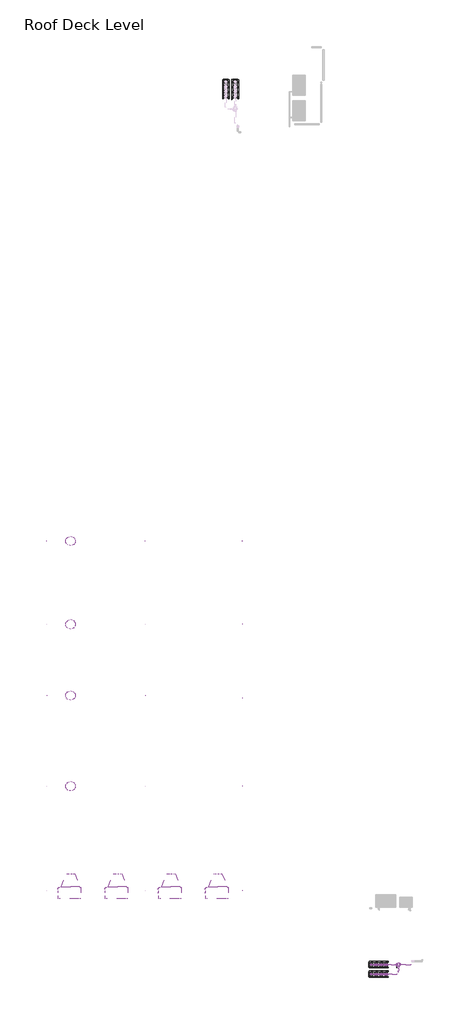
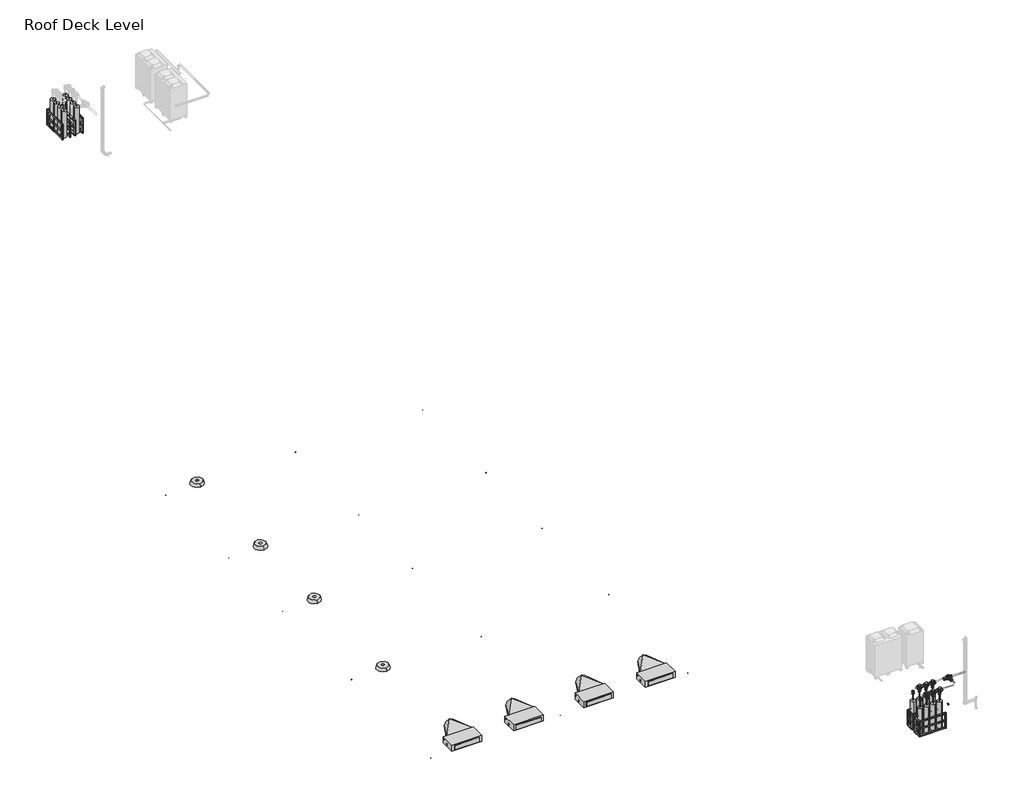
# One storey, part 1 of 3: 20 pipe segments, 17 pipe fittings, 15 light fixtures, 4 air terminals, 4 duct fittings, 4 flow terminals, 4 proxies.
"""IFC4 building model written with IfcOpenShell, lengths in millimetres."""

from ifc_helpers import new_model, si_unit, point, frame, frame_2d, origin, place, context, project, spatial, circle_curve, trimmed, segment, composite_curve, outline, extrude, transform, mapped, element, save
from components import m_supply_diffuser_circular_round_neck_ceiling_mounted_600_mm_208f270a, fcu_daikin_iu_5a1bd61d, m_rectangular_to_round_transition_angle_45_degree_78946b4e, flow_terminal_4c00ecbf, m_studio_light_120v_2dcb9a91, m_reducer_flanged_cs_class_150_standard_b6b67c23, m_reducer_flanged_cs_class_150_standard_6ae1fdcb, m_reducer_flanged_cs_class_150_standard_13db1923, m_tee_round_base_flanged_cs_class_150_standard_dd767e04, m_tee_round_base_flanged_cs_class_150_standard_9c9133d0

model = new_model("IFC4")

# Units and contexts
model_context = context("Model", 3, world=origin())
ifc_project = project(units=[si_unit("LENGTHUNIT", "METRE", prefix="MILLI")], contexts=[model_context])

# Site, building, storey
site = spatial("IfcSite", under=ifc_project)
building = spatial("IfcBuilding", under=site)
storey = spatial("IfcBuildingStorey", under=building, Name="Roof Deck Level", Elevation=4400.0)

# Air terminals
placement = place(None, origin())
m_supply_diffuser_circular_round_neck_ceiling_mounted_600_mm_shape = m_supply_diffuser_circular_round_neck_ceiling_mounted_600_mm_208f270a(model_context)
element("IfcAirTerminal", 1, ObjectType="M_Supply Diffuser - Circular - Round Neck - Ceiling Mounted : 600 mm Face 500 mm Neck", at=placement, inside=storey, context=model_context, shape_type="MappedRepresentation", body=[
    mapped(m_supply_diffuser_circular_round_neck_ceiling_mounted_600_mm_shape, transform((-16150.3527512, -9864.9909647, 7272.7131214), x_axis=(0.0, 0.9999999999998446, -5.576948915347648e-07), y_axis=(1.0000000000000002, 0.0, 0.0), z_axis=(0.0, -5.576948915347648e-07, -0.9999999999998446))),
])
element("IfcAirTerminal", 2, ObjectType="M_Supply Diffuser - Circular - Round Neck - Ceiling Mounted : 600 mm Face 500 mm Neck", at=placement, inside=storey, context=model_context, shape_type="MappedRepresentation", body=[
    mapped(m_supply_diffuser_circular_round_neck_ceiling_mounted_600_mm_shape, transform((-16150.3527512, -15012.9908891, 7272.7159924), x_axis=(0.0, 0.9999999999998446, -5.576948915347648e-07), y_axis=(1.0000000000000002, 0.0, 0.0), z_axis=(0.0, -5.576948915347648e-07, -0.9999999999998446))),
])
element("IfcAirTerminal", 3, ObjectType="M_Supply Diffuser - Circular - Round Neck - Ceiling Mounted : 600 mm Face 500 mm Neck", at=placement, inside=storey, context=model_context, shape_type="MappedRepresentation", body=[
    mapped(m_supply_diffuser_circular_round_neck_ceiling_mounted_600_mm_shape, transform((-16150.3527512, -19404.9911041, 7272.7184418), x_axis=(0.0, 0.9999999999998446, -5.576948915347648e-07), y_axis=(1.0000000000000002, 0.0, 0.0), z_axis=(0.0, -5.576948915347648e-07, -0.9999999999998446))),
])
element("IfcAirTerminal", 4, ObjectType="M_Supply Diffuser - Circular - Round Neck - Ceiling Mounted : 600 mm Face 500 mm Neck", at=placement, inside=storey, context=model_context, shape_type="MappedRepresentation", body=[
    mapped(m_supply_diffuser_circular_round_neck_ceiling_mounted_600_mm_shape, transform((-16150.3527512, -25004.9911041, 7272.7215649), x_axis=(0.0, 0.9999999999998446, -5.576948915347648e-07), y_axis=(1.0000000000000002, 0.0, 0.0), z_axis=(0.0, -5.576948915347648e-07, -0.9999999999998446))),
])

# Proxies
fcu_daikin_iu_shape = fcu_daikin_iu_5a1bd61d(model_context)
element("IfcBuildingElementProxy", 5, Name="FCU-DAIKIN IU : 12.9kW, 230V/50Hz/1Ph", ObjectType="FCU-DAIKIN IU : 12.9kW, 230V/50Hz/1Ph", at=placement, inside=storey, context=model_context, shape_type="MappedRepresentation", body=[
    mapped(fcu_daikin_iu_shape, transform((-16213.8527512, -31596.4125677, 7600.0), x_axis=(-1.0, 0.0, 0.0), y_axis=(0.0, -1.0, 0.0), z_axis=(0.0, 0.0, 1.0))),
])
element("IfcBuildingElementProxy", 6, Name="FCU-DAIKIN IU : 12.9kW, 230V/50Hz/1Ph", ObjectType="FCU-DAIKIN IU : 12.9kW, 230V/50Hz/1Ph", at=placement, inside=storey, context=model_context, shape_type="MappedRepresentation", body=[
    mapped(fcu_daikin_iu_shape, transform((-13313.8527512, -31596.4125677, 7600.0), x_axis=(-1.0, 0.0, 0.0), y_axis=(0.0, -1.0, 0.0), z_axis=(0.0, 0.0, 1.0))),
])
element("IfcBuildingElementProxy", 7, Name="FCU-DAIKIN IU : 12.9kW, 230V/50Hz/1Ph", ObjectType="FCU-DAIKIN IU : 12.9kW, 230V/50Hz/1Ph", at=placement, inside=storey, context=model_context, shape_type="MappedRepresentation", body=[
    mapped(fcu_daikin_iu_shape, transform((-10013.8527512, -31596.4125677, 7600.0), x_axis=(-1.0, 0.0, 0.0), y_axis=(0.0, -1.0, 0.0), z_axis=(0.0, 0.0, 1.0))),
])
element("IfcBuildingElementProxy", 8, Name="FCU-DAIKIN IU : 12.9kW, 230V/50Hz/1Ph", ObjectType="FCU-DAIKIN IU : 12.9kW, 230V/50Hz/1Ph", at=placement, inside=storey, context=model_context, shape_type="MappedRepresentation", body=[
    mapped(fcu_daikin_iu_shape, transform((-7113.8527512, -31596.4125677, 7600.0), x_axis=(-1.0, 0.0, 0.0), y_axis=(0.0, -1.0, 0.0), z_axis=(0.0, 0.0, 1.0))),
])

# Duct fittings
m_rectangular_to_round_transition_angle_45_degree_shape = m_rectangular_to_round_transition_angle_45_degree_78946b4e(model_context)
element("IfcDuctFitting", 9, ObjectType="M_Rectangular to Round Transition - Angle : 45 Degree", at=placement, inside=storey, context=model_context, shape_type="MappedRepresentation", body=[
    mapped(m_rectangular_to_round_transition_angle_45_degree_shape, transform((-16150.3527512, -31221.0125677, 7765.9125), x_axis=(0.0, 1.0, 0.0), y_axis=(-1.0, 0.0, 0.0), z_axis=(0.0, 0.0, 1.0))),
])
element("IfcDuctFitting", 10, ObjectType="M_Rectangular to Round Transition - Angle : 45 Degree", at=placement, inside=storey, context=model_context, shape_type="MappedRepresentation", body=[
    mapped(m_rectangular_to_round_transition_angle_45_degree_shape, transform((-13250.3527512, -31221.0125677, 7765.9125), x_axis=(0.0, 1.0, 0.0), y_axis=(-1.0, 0.0, 0.0), z_axis=(0.0, 0.0, 1.0))),
])
element("IfcDuctFitting", 11, ObjectType="M_Rectangular to Round Transition - Angle : 45 Degree", at=placement, inside=storey, context=model_context, shape_type="MappedRepresentation", body=[
    mapped(m_rectangular_to_round_transition_angle_45_degree_shape, transform((-9950.3527512, -31221.0125677, 7765.9125), x_axis=(0.0, 1.0, 0.0), y_axis=(-1.0, 0.0, 0.0), z_axis=(0.0, 0.0, 1.0))),
])
element("IfcDuctFitting", 12, ObjectType="M_Rectangular to Round Transition - Angle : 45 Degree", at=placement, inside=storey, context=model_context, shape_type="MappedRepresentation", body=[
    mapped(m_rectangular_to_round_transition_angle_45_degree_shape, transform((-7050.3527512, -31221.0125677, 7765.9125), x_axis=(0.0, 1.0, 0.0), y_axis=(-1.0, 0.0, 0.0), z_axis=(0.0, 0.0, 1.0))),
])

# Flow terminals
flow_terminal_shape = flow_terminal_4c00ecbf(model_context)
element("IfcFlowTerminal", 13, ObjectType="Gas_Cylinder_Rack_4_Tanks_1x4_USAsafetycom_18954 : Gas_Cylinder_Rack_4_Tanks_1x4_USAsafetycom_18954", at=placement, inside=storey, context=model_context, shape_type="MappedRepresentation", body=[
    mapped(flow_terminal_shape, transform((-6181.330502, 18664.3611936, 4550.0), x_axis=(1.0, 0.0, 0.0), y_axis=(0.0, 1.0, 0.0), z_axis=(0.0, 0.0, 1.0))),
])
element("IfcFlowTerminal", 14, ObjectType="Gas_Cylinder_Rack_4_Tanks_1x4_USAsafetycom_18954 : Gas_Cylinder_Rack_4_Tanks_1x4_USAsafetycom_18954", at=placement, inside=storey, context=model_context, shape_type="MappedRepresentation", body=[
    mapped(flow_terminal_shape, transform((-6766.0546656, 18664.3611936, 4550.0), x_axis=(1.0, 0.0, 0.0), y_axis=(0.0, 1.0, 0.0), z_axis=(0.0, 0.0, 1.0))),
])
element("IfcFlowTerminal", 15, ObjectType="Gas_Cylinder_Rack_4_Tanks_1x4_USAsafetycom_18954 : Gas_Cylinder_Rack_4_Tanks_1x4_USAsafetycom_18954", at=placement, inside=storey, context=model_context, shape_type="MappedRepresentation", body=[
    mapped(flow_terminal_shape, transform((2259.9831599, -36236.9985971, 4550.0), x_axis=(0.0, 1.0, 0.0), y_axis=(-1.0, 0.0, 0.0), z_axis=(0.0, 0.0, 1.0))),
])
element("IfcFlowTerminal", 16, ObjectType="Gas_Cylinder_Rack_4_Tanks_1x4_USAsafetycom_18954 : Gas_Cylinder_Rack_4_Tanks_1x4_USAsafetycom_18954", at=placement, inside=storey, context=model_context, shape_type="MappedRepresentation", body=[
    mapped(flow_terminal_shape, transform((2259.9831599, -36821.7227607, 4550.0), x_axis=(0.0, 1.0, 0.0), y_axis=(-1.0, 0.0, 0.0), z_axis=(0.0, 0.0, 1.0))),
])

# Light fixtures
m_studio_light_120v_shape = m_studio_light_120v_2dcb9a91(model_context)
element("IfcLightFixture", 17, ObjectType="M_Studio Light : 120V", at=placement, inside=storey, context=model_context, shape_type="MappedRepresentation", body=[
    mapped(m_studio_light_120v_shape, transform((-11527.2327605, -9864.7846466, 4800.0), x_axis=(1.0, 0.0, 0.0), y_axis=(0.0, 1.0, 0.0), z_axis=(0.0, 0.0, 1.0))),
])
element("IfcLightFixture", 18, ObjectType="M_Studio Light : 120V", at=placement, inside=storey, context=model_context, shape_type="MappedRepresentation", body=[
    mapped(m_studio_light_120v_shape, transform((-11527.2327605, -15012.7846466, 4800.0), x_axis=(1.0, 0.0, 0.0), y_axis=(0.0, 1.0, 0.0), z_axis=(0.0, 0.0, 1.0))),
])
element("IfcLightFixture", 19, ObjectType="M_Studio Light : 120V", at=placement, inside=storey, context=model_context, shape_type="MappedRepresentation", body=[
    mapped(m_studio_light_120v_shape, transform((-11527.2327605, -19404.7846466, 4800.0), x_axis=(1.0, 0.0, 0.0), y_axis=(0.0, 1.0, 0.0), z_axis=(0.0, 0.0, 1.0))),
])
element("IfcLightFixture", 20, ObjectType="M_Studio Light : 120V", at=placement, inside=storey, context=model_context, shape_type="MappedRepresentation", body=[
    mapped(m_studio_light_120v_shape, transform((-11527.2327605, -25004.7846466, 4800.0), x_axis=(1.0, 0.0, 0.0), y_axis=(0.0, 1.0, 0.0), z_axis=(0.0, 0.0, 1.0))),
])
element("IfcLightFixture", 21, ObjectType="M_Studio Light : 120V", at=placement, inside=storey, context=model_context, shape_type="MappedRepresentation", body=[
    mapped(m_studio_light_120v_shape, transform((-11527.2327605, -31454.7846468, 4800.0), x_axis=(1.0, 0.0, 0.0), y_axis=(0.0, 1.0, 0.0), z_axis=(0.0, 0.0, 1.0))),
])
element("IfcLightFixture", 22, ObjectType="M_Studio Light : 120V", at=placement, inside=storey, context=model_context, shape_type="MappedRepresentation", body=[
    mapped(m_studio_light_120v_shape, transform((-17631.8152535, -9864.7846466, 4800.0), x_axis=(1.0, 0.0, 0.0), y_axis=(0.0, 1.0, 0.0), z_axis=(0.0, 0.0, 1.0))),
])
element("IfcLightFixture", 23, ObjectType="M_Studio Light : 120V", at=placement, inside=storey, context=model_context, shape_type="MappedRepresentation", body=[
    mapped(m_studio_light_120v_shape, transform((-17631.8152535, -15012.7846466, 4800.0), x_axis=(1.0, 0.0, 0.0), y_axis=(0.0, 1.0, 0.0), z_axis=(0.0, 0.0, 1.0))),
])
element("IfcLightFixture", 24, ObjectType="M_Studio Light : 120V", at=placement, inside=storey, context=model_context, shape_type="MappedRepresentation", body=[
    mapped(m_studio_light_120v_shape, transform((-17631.8152535, -19404.7846466, 4800.0), x_axis=(1.0, 0.0, 0.0), y_axis=(0.0, 1.0, 0.0), z_axis=(0.0, 0.0, 1.0))),
])
element("IfcLightFixture", 25, ObjectType="M_Studio Light : 120V", at=placement, inside=storey, context=model_context, shape_type="MappedRepresentation", body=[
    mapped(m_studio_light_120v_shape, transform((-17631.8152535, -25004.7846466, 4800.0), x_axis=(1.0, 0.0, 0.0), y_axis=(0.0, 1.0, 0.0), z_axis=(0.0, 0.0, 1.0))),
])
element("IfcLightFixture", 26, ObjectType="M_Studio Light : 120V", at=placement, inside=storey, context=model_context, shape_type="MappedRepresentation", body=[
    mapped(m_studio_light_120v_shape, transform((-17631.8152535, -31454.7846468, 4800.0), x_axis=(1.0, 0.0, 0.0), y_axis=(0.0, 1.0, 0.0), z_axis=(0.0, 0.0, 1.0))),
])
element("IfcLightFixture", 27, ObjectType="M_Studio Light : 120V", at=placement, inside=storey, context=model_context, shape_type="MappedRepresentation", body=[
    mapped(m_studio_light_120v_shape, transform((-5533.240678, -9864.7846466, 4800.0), x_axis=(1.0, 0.0, 0.0), y_axis=(0.0, 1.0, 0.0), z_axis=(0.0, 0.0, 1.0))),
])
element("IfcLightFixture", 28, ObjectType="M_Studio Light : 120V", at=placement, inside=storey, context=model_context, shape_type="MappedRepresentation", body=[
    mapped(m_studio_light_120v_shape, transform((-5533.240678, -15012.7846466, 4800.0), x_axis=(1.0, 0.0, 0.0), y_axis=(0.0, 1.0, 0.0), z_axis=(0.0, 0.0, 1.0))),
])
element("IfcLightFixture", 29, ObjectType="M_Studio Light : 120V", at=placement, inside=storey, context=model_context, shape_type="MappedRepresentation", body=[
    mapped(m_studio_light_120v_shape, transform((-5533.240678, -19574.7846466, 4800.0), x_axis=(1.0, 0.0, 0.0), y_axis=(0.0, 1.0, 0.0), z_axis=(0.0, 0.0, 1.0))),
])
element("IfcLightFixture", 30, ObjectType="M_Studio Light : 120V", at=placement, inside=storey, context=model_context, shape_type="MappedRepresentation", body=[
    mapped(m_studio_light_120v_shape, transform((-5533.240678, -25004.7846466, 4800.0), x_axis=(1.0, 0.0, 0.0), y_axis=(0.0, 1.0, 0.0), z_axis=(0.0, 0.0, 1.0))),
])
element("IfcLightFixture", 31, ObjectType="M_Studio Light : 120V", at=placement, inside=storey, context=model_context, shape_type="MappedRepresentation", body=[
    mapped(m_studio_light_120v_shape, transform((-5533.240678, -31454.7846468, 4800.0), x_axis=(1.0, 0.0, 0.0), y_axis=(0.0, 1.0, 0.0), z_axis=(0.0, 0.0, 1.0))),
])

# Pipe fittings
m_reducer_flanged_cs_class_150_standard_shape = m_reducer_flanged_cs_class_150_standard_b6b67c23(model_context)
element("IfcPipeFitting", 32, ObjectType="M_Reducer - Flanged - CS - Class 150 : Standard", at=placement, inside=storey, context=model_context, shape_type="MappedRepresentation", body=[
    mapped(m_reducer_flanged_cs_class_150_standard_shape, transform((2729.8831599, -36618.5227607, 6293.9014063), x_axis=(0.0, 0.0, -1.0), y_axis=(1.0, 0.0, 0.0), z_axis=(0.0, -1.0, 0.0))),
])
element("IfcPipeFitting", 33, ObjectType="M_Reducer - Flanged - CS - Class 150 : Standard", at=placement, inside=storey, context=model_context, shape_type="MappedRepresentation", body=[
    mapped(m_reducer_flanged_cs_class_150_standard_shape, transform((3339.4831599, -36618.5227607, 6293.9014063), x_axis=(0.0, 0.0, -1.0), y_axis=(1.0, 0.0, 0.0), z_axis=(0.0, -1.0, 0.0))),
])
element("IfcPipeFitting", 34, ObjectType="M_Reducer - Flanged - CS - Class 150 : Standard", at=placement, inside=storey, context=model_context, shape_type="MappedRepresentation", body=[
    mapped(m_reducer_flanged_cs_class_150_standard_shape, transform((2729.8831599, -36033.7985971, 6293.9014063), x_axis=(0.0, 0.0, -1.0), y_axis=(1.0, 0.0, 0.0), z_axis=(0.0, -1.0, 0.0))),
])
element("IfcPipeFitting", 35, ObjectType="M_Reducer - Flanged - CS - Class 150 : Standard", at=placement, inside=storey, context=model_context, shape_type="MappedRepresentation", body=[
    mapped(m_reducer_flanged_cs_class_150_standard_shape, transform((3339.4831599, -36033.7985971, 6293.9014063), x_axis=(0.0, 0.0, -1.0), y_axis=(1.0, 0.0, 0.0), z_axis=(0.0, -1.0, 0.0))),
])
m_reducer_flanged_cs_class_150_standard_2_shape = m_reducer_flanged_cs_class_150_standard_6ae1fdcb(model_context)
element("IfcPipeFitting", 36, ObjectType="M_Reducer - Flanged - CS - Class 150 : Standard", at=placement, inside=storey, context=model_context, shape_type="MappedRepresentation", body=[
    mapped(m_reducer_flanged_cs_class_150_standard_2_shape, transform((2425.0831599, -36618.5227607, 6293.9014063), x_axis=(0.0, 0.0, -1.0), y_axis=(0.0, -1.0, 0.0), z_axis=(-1.0, 0.0, 0.0))),
])
element("IfcPipeFitting", 37, ObjectType="M_Reducer - Flanged - CS - Class 150 : Standard", at=placement, inside=storey, context=model_context, shape_type="MappedRepresentation", body=[
    mapped(m_reducer_flanged_cs_class_150_standard_2_shape, transform((3034.6831599, -36618.5227607, 6293.9014063), x_axis=(0.0, 0.0, -1.0), y_axis=(0.0, -1.0, 0.0), z_axis=(-1.0, 0.0, 0.0))),
])
element("IfcPipeFitting", 38, ObjectType="M_Reducer - Flanged - CS - Class 150 : Standard", at=placement, inside=storey, context=model_context, shape_type="MappedRepresentation", body=[
    mapped(m_reducer_flanged_cs_class_150_standard_2_shape, transform((2425.0831599, -36033.7985971, 6293.9014063), x_axis=(0.0, 0.0, -1.0), y_axis=(0.0, -1.0, 0.0), z_axis=(-1.0, 0.0, 0.0))),
])
element("IfcPipeFitting", 39, ObjectType="M_Reducer - Flanged - CS - Class 150 : Standard", at=placement, inside=storey, context=model_context, shape_type="MappedRepresentation", body=[
    mapped(m_reducer_flanged_cs_class_150_standard_2_shape, transform((3034.6831599, -36033.7985971, 6293.9014063), x_axis=(0.0, 0.0, -1.0), y_axis=(0.0, -1.0, 0.0), z_axis=(-1.0, 0.0, 0.0))),
])
m_reducer_flanged_cs_class_150_standard_3_shape = m_reducer_flanged_cs_class_150_standard_13db1923(model_context)
element("IfcPipeFitting", 40, ObjectType="M_Reducer - Flanged - CS - Class 150 : Standard", at=placement, inside=storey, context=model_context, shape_type="MappedRepresentation", body=[
    mapped(m_reducer_flanged_cs_class_150_standard_3_shape, transform((3991.5817536, -36033.7985971, 6400.0), x_axis=(-1.0, 0.0, 0.0), y_axis=(0.0, -1.0, 0.0), z_axis=(0.0, 0.0, 1.0))),
])
element("IfcPipeFitting", 41, ObjectType="M_Reducer - Flanged - CS - Class 150 : Standard", at=placement, inside=storey, context=model_context, shape_type="MappedRepresentation", body=[
    mapped(m_reducer_flanged_cs_class_150_standard_3_shape, transform((4105.5817536, -36147.7985971, 6400.0), x_axis=(0.0, -1.0, 0.0), y_axis=(1.0, 0.0, 0.0), z_axis=(0.0, 0.0, 1.0))),
])
m_tee_round_base_flanged_cs_class_150_standard_shape = m_tee_round_base_flanged_cs_class_150_standard_dd767e04(model_context)
element("IfcPipeFitting", 42, ObjectType="M_Tee Round Base - Flanged - CS - Class 150 : Standard", at=placement, inside=storey, context=model_context, shape_type="MappedRepresentation", body=[
    mapped(m_tee_round_base_flanged_cs_class_150_standard_shape, transform((4105.5817536, -36033.7985971, 6400.0), x_axis=(-1.0, 0.0, 0.0), y_axis=(0.0, 1.0, 0.0), z_axis=(0.0, 0.0, -1.0))),
])
m_tee_round_base_flanged_cs_class_150_standard_2_shape = m_tee_round_base_flanged_cs_class_150_standard_9c9133d0(model_context)
element("IfcPipeFitting", 43, ObjectType="M_Tee Round Base - Flanged - CS - Class 150 : Standard", at=placement, inside=storey, context=model_context, shape_type="MappedRepresentation", body=[
    mapped(m_tee_round_base_flanged_cs_class_150_standard_2_shape, transform((2729.8831599, -36618.5227607, 6400.0), x_axis=(-1.0, 0.0, 0.0), y_axis=(0.0, 0.0, 1.0), z_axis=(0.0, 1.0, 0.0))),
])
element("IfcPipeFitting", 44, ObjectType="M_Tee Round Base - Flanged - CS - Class 150 : Standard", at=placement, inside=storey, context=model_context, shape_type="MappedRepresentation", body=[
    mapped(m_tee_round_base_flanged_cs_class_150_standard_2_shape, transform((3034.6831599, -36618.5227607, 6400.0), x_axis=(-1.0, 0.0, 0.0), y_axis=(0.0, 0.0, 1.0), z_axis=(0.0, 1.0, 0.0))),
])
element("IfcPipeFitting", 45, ObjectType="M_Tee Round Base - Flanged - CS - Class 150 : Standard", at=placement, inside=storey, context=model_context, shape_type="MappedRepresentation", body=[
    mapped(m_tee_round_base_flanged_cs_class_150_standard_2_shape, transform((3339.4831599, -36618.5227607, 6400.0), x_axis=(1.0, 0.0, 0.0), y_axis=(0.0, 0.0, 1.0), z_axis=(0.0, -1.0, 0.0))),
])
element("IfcPipeFitting", 46, ObjectType="M_Tee Round Base - Flanged - CS - Class 150 : Standard", at=placement, inside=storey, context=model_context, shape_type="MappedRepresentation", body=[
    mapped(m_tee_round_base_flanged_cs_class_150_standard_2_shape, transform((2729.8831599, -36033.7985971, 6400.0), x_axis=(-1.0, 0.0, 0.0), y_axis=(0.0, 0.0, 1.0), z_axis=(0.0, 1.0, 0.0))),
])
element("IfcPipeFitting", 47, ObjectType="M_Tee Round Base - Flanged - CS - Class 150 : Standard", at=placement, inside=storey, context=model_context, shape_type="MappedRepresentation", body=[
    mapped(m_tee_round_base_flanged_cs_class_150_standard_2_shape, transform((3034.6831599, -36033.7985971, 6400.0), x_axis=(-1.0, 0.0, 0.0), y_axis=(0.0, 0.0, 1.0), z_axis=(0.0, 1.0, 0.0))),
])
element("IfcPipeFitting", 48, ObjectType="M_Tee Round Base - Flanged - CS - Class 150 : Standard", at=placement, inside=storey, context=model_context, shape_type="MappedRepresentation", body=[
    mapped(m_tee_round_base_flanged_cs_class_150_standard_2_shape, transform((3339.4831599, -36033.7985971, 6400.0), x_axis=(1.0, 0.0, 0.0), y_axis=(0.0, 0.0, 1.0), z_axis=(0.0, -1.0, 0.0))),
])

# Pipe segments
element("IfcPipeSegment", 49, ObjectType="Copper", at=placement, inside=storey, context=model_context, shape_type="SweptSolid", body=[
    extrude(outline(composite_curve([segment(trimmed(circle_curve(frame_2d((2911.2893107, -32322.8712695)), 8.1), [point((2919.3893107, -32322.8712695))], [point((2911.2893107, -32330.9712695))], False, "CARTESIAN"), True, "CONTINUOUS"), segment(trimmed(circle_curve(frame_2d((2911.2893107, -32322.8712695)), 8.1), [point((2911.2893107, -32330.9712695))], [point((2903.1893107, -32322.8712695))], False, "CARTESIAN"), True, "CONTINUOUS"), segment(trimmed(circle_curve(frame_2d((2911.2893107, -32322.8712695)), 8.1), [point((2903.1893107, -32322.8712695))], [point((2911.2893107, -32314.7712695))], False, "CARTESIAN"), True, "CONTINUOUS"), segment(trimmed(circle_curve(frame_2d((2911.2893107, -32322.8712695)), 8.1), [point((2911.2893107, -32314.7712695))], [point((2919.3893107, -32322.8712695))], False, "CARTESIAN"), True, "CONTINUOUS")], self_intersect=False)), frame((0.0, 0.0, 4637.3658765), z_axis=(0.0, 0.0, 1.0), x_axis=(1.0, 0.0, 0.0)), (0.0, 0.0, 1.0), 74.5593235),
])
element("IfcPipeSegment", 50, ObjectType="PVC - DWV", at=placement, inside=storey, context=model_context, shape_type="SweptSolid", body=[
    extrude(outline(composite_curve([segment(trimmed(circle_curve(frame_2d((0.0, -36.5125)), 36.5125), [point((0.0, -73.025))], [point((-36.5125, -36.5125))], False, "CARTESIAN"), True, "CONTINUOUS"), segment(trimmed(circle_curve(frame_2d((0.0, -36.5125)), 36.5125), [point((-36.5125, -36.5125))], [point((0.0, 0.0))], False, "CARTESIAN"), True, "CONTINUOUS"), segment(trimmed(circle_curve(frame_2d((0.0, -36.5125)), 36.5125), [point((0.0, 0.0))], [point((36.5125, -36.5125))], False, "CARTESIAN"), True, "CONTINUOUS"), segment(trimmed(circle_curve(frame_2d((0.0, -36.5125)), 36.5125), [point((36.5125, -36.5125))], [point((0.0, -73.025))], False, "CARTESIAN"), True, "CONTINUOUS")], self_intersect=False)), frame((3992.6535258, -36139.6276483, 5199.4075607), z_axis=(-0.999950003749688, 0.0, 0.009999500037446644), x_axis=(0.009999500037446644, 0.0, 0.999950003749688)), (0.0, 0.0, 1.0), 9.2493939),
])
element("IfcPipeSegment", 51, ObjectType="Steel flanged", at=placement, inside=storey, context=model_context, shape_type="SweptSolid", body=[
    extrude(outline(composite_curve([segment(trimmed(circle_curve(frame_2d((-36033.7985971, 6400.0)), 30.1625), [point((-36003.6360971, 6400.0))], [point((-36033.7985971, 6369.8375))], False, "CARTESIAN"), True, "CONTINUOUS"), segment(trimmed(circle_curve(frame_2d((-36033.7985971, 6400.0)), 30.1625), [point((-36033.7985971, 6369.8375))], [point((-36063.9610971, 6400.0))], False, "CARTESIAN"), True, "CONTINUOUS"), segment(trimmed(circle_curve(frame_2d((-36033.7985971, 6400.0)), 30.1625), [point((-36063.9610971, 6400.0))], [point((-36033.7985971, 6430.1625))], False, "CARTESIAN"), True, "CONTINUOUS"), segment(trimmed(circle_curve(frame_2d((-36033.7985971, 6400.0)), 30.1625), [point((-36033.7985971, 6430.1625))], [point((-36003.6360971, 6400.0))], False, "CARTESIAN"), True, "CONTINUOUS")], self_intersect=False)), frame((4219.5817536, 0.0, 0.0), z_axis=(1.0, 0.0, 0.0), x_axis=(0.0, 1.0, 0.0)), (0.0, 0.0, 1.0), 651.0357358),
])
element("IfcPipeSegment", 52, ObjectType="Steel flanged", at=placement, inside=storey, context=model_context, shape_type="SweptSolid", body=[
    extrude(outline(composite_curve([segment(trimmed(circle_curve(frame_2d((3339.4831599, -36618.5227607)), 16.7005), [point((3322.7826599, -36618.5227607))], [point((3339.4831599, -36601.8222607))], False, "CARTESIAN"), True, "CONTINUOUS"), segment(trimmed(circle_curve(frame_2d((3339.4831599, -36618.5227607)), 16.7005), [point((3339.4831599, -36601.8222607))], [point((3356.1836599, -36618.5227607))], False, "CARTESIAN"), True, "CONTINUOUS"), segment(trimmed(circle_curve(frame_2d((3339.4831599, -36618.5227607)), 16.7005), [point((3356.1836599, -36618.5227607))], [point((3339.4831599, -36635.2232607))], False, "CARTESIAN"), True, "CONTINUOUS"), segment(trimmed(circle_curve(frame_2d((3339.4831599, -36618.5227607)), 16.7005), [point((3339.4831599, -36635.2232607))], [point((3322.7826599, -36618.5227607))], False, "CARTESIAN"), True, "CONTINUOUS")], self_intersect=False)), frame((0.0, 0.0, 5895.4), z_axis=(0.0, 0.0, 1.0), x_axis=(1.0, 0.0, 0.0)), (0.0, 0.0, 1.0), 284.5014063),
])
element("IfcPipeSegment", 53, ObjectType="Steel flanged", at=placement, inside=storey, context=model_context, shape_type="SweptSolid", body=[
    extrude(outline(composite_curve([segment(trimmed(circle_curve(frame_2d((-36618.5227607, 6400.0)), 21.082), [point((-36639.6047607, 6400.0))], [point((-36618.5227607, 6421.082))], False, "CARTESIAN"), True, "CONTINUOUS"), segment(trimmed(circle_curve(frame_2d((-36618.5227607, 6400.0)), 21.082), [point((-36618.5227607, 6421.082))], [point((-36597.4407607, 6400.0))], False, "CARTESIAN"), True, "CONTINUOUS"), segment(trimmed(circle_curve(frame_2d((-36618.5227607, 6400.0)), 21.082), [point((-36597.4407607, 6400.0))], [point((-36618.5227607, 6378.918))], False, "CARTESIAN"), True, "CONTINUOUS"), segment(trimmed(circle_curve(frame_2d((-36618.5227607, 6400.0)), 21.082), [point((-36618.5227607, 6378.918))], [point((-36639.6047607, 6400.0))], False, "CARTESIAN"), True, "CONTINUOUS")], self_intersect=False)), frame((3140.7817536, 0.0, 0.0), z_axis=(1.0, 0.0, 0.0), x_axis=(0.0, 1.0, 0.0)), (0.0, 0.0, 1.0), 92.6028125),
])
element("IfcPipeSegment", 54, ObjectType="Steel flanged", at=placement, inside=storey, context=model_context, shape_type="SweptSolid", body=[
    extrude(outline(composite_curve([segment(trimmed(circle_curve(frame_2d((2425.0831599, -36618.5227607)), 16.7005), [point((2408.3826599, -36618.5227607))], [point((2425.0831599, -36601.8222607))], False, "CARTESIAN"), True, "CONTINUOUS"), segment(trimmed(circle_curve(frame_2d((2425.0831599, -36618.5227607)), 16.7005), [point((2425.0831599, -36601.8222607))], [point((2441.7836599, -36618.5227607))], False, "CARTESIAN"), True, "CONTINUOUS"), segment(trimmed(circle_curve(frame_2d((2425.0831599, -36618.5227607)), 16.7005), [point((2441.7836599, -36618.5227607))], [point((2425.0831599, -36635.2232607))], False, "CARTESIAN"), True, "CONTINUOUS"), segment(trimmed(circle_curve(frame_2d((2425.0831599, -36618.5227607)), 16.7005), [point((2425.0831599, -36635.2232607))], [point((2408.3826599, -36618.5227607))], False, "CARTESIAN"), True, "CONTINUOUS")], self_intersect=False)), frame((0.0, 0.0, 5895.4), z_axis=(0.0, 0.0, 1.0), x_axis=(1.0, 0.0, 0.0)), (0.0, 0.0, 1.0), 284.5014063),
])
element("IfcPipeSegment", 55, ObjectType="Steel flanged", at=placement, inside=storey, context=model_context, shape_type="SweptSolid", body=[
    extrude(outline(composite_curve([segment(trimmed(circle_curve(frame_2d((-36618.5227607, 6400.0)), 21.082), [point((-36639.6047607, 6400.0))], [point((-36618.5227607, 6421.082))], False, "CARTESIAN"), True, "CONTINUOUS"), segment(trimmed(circle_curve(frame_2d((-36618.5227607, 6400.0)), 21.082), [point((-36618.5227607, 6421.082))], [point((-36597.4407607, 6400.0))], False, "CARTESIAN"), True, "CONTINUOUS"), segment(trimmed(circle_curve(frame_2d((-36618.5227607, 6400.0)), 21.082), [point((-36597.4407607, 6400.0))], [point((-36618.5227607, 6378.918))], False, "CARTESIAN"), True, "CONTINUOUS"), segment(trimmed(circle_curve(frame_2d((-36618.5227607, 6400.0)), 21.082), [point((-36618.5227607, 6378.918))], [point((-36639.6047607, 6400.0))], False, "CARTESIAN"), True, "CONTINUOUS")], self_intersect=False)), frame((2531.1817536, 0.0, 0.0), z_axis=(1.0, 0.0, 0.0), x_axis=(0.0, 1.0, 0.0)), (0.0, 0.0, 1.0), 92.6028125),
])
element("IfcPipeSegment", 56, ObjectType="Steel flanged", at=placement, inside=storey, context=model_context, shape_type="SweptSolid", body=[
    extrude(outline(composite_curve([segment(trimmed(circle_curve(frame_2d((2729.8831599, -36618.5227607)), 16.7005), [point((2713.1826599, -36618.5227607))], [point((2729.8831599, -36601.8222607))], False, "CARTESIAN"), True, "CONTINUOUS"), segment(trimmed(circle_curve(frame_2d((2729.8831599, -36618.5227607)), 16.7005), [point((2729.8831599, -36601.8222607))], [point((2746.5836599, -36618.5227607))], False, "CARTESIAN"), True, "CONTINUOUS"), segment(trimmed(circle_curve(frame_2d((2729.8831599, -36618.5227607)), 16.7005), [point((2746.5836599, -36618.5227607))], [point((2729.8831599, -36635.2232607))], False, "CARTESIAN"), True, "CONTINUOUS"), segment(trimmed(circle_curve(frame_2d((2729.8831599, -36618.5227607)), 16.7005), [point((2729.8831599, -36635.2232607))], [point((2713.1826599, -36618.5227607))], False, "CARTESIAN"), True, "CONTINUOUS")], self_intersect=False)), frame((0.0, 0.0, 5895.4), z_axis=(0.0, 0.0, 1.0), x_axis=(1.0, 0.0, 0.0)), (0.0, 0.0, 1.0), 284.5014063),
])
element("IfcPipeSegment", 57, ObjectType="Steel flanged", at=placement, inside=storey, context=model_context, shape_type="SweptSolid", body=[
    extrude(outline(composite_curve([segment(trimmed(circle_curve(frame_2d((-36618.5227607, 6400.0)), 21.082), [point((-36639.6047607, 6400.0))], [point((-36618.5227607, 6421.082))], False, "CARTESIAN"), True, "CONTINUOUS"), segment(trimmed(circle_curve(frame_2d((-36618.5227607, 6400.0)), 21.082), [point((-36618.5227607, 6421.082))], [point((-36597.4407607, 6400.0))], False, "CARTESIAN"), True, "CONTINUOUS"), segment(trimmed(circle_curve(frame_2d((-36618.5227607, 6400.0)), 21.082), [point((-36597.4407607, 6400.0))], [point((-36618.5227607, 6378.918))], False, "CARTESIAN"), True, "CONTINUOUS"), segment(trimmed(circle_curve(frame_2d((-36618.5227607, 6400.0)), 21.082), [point((-36618.5227607, 6378.918))], [point((-36639.6047607, 6400.0))], False, "CARTESIAN"), True, "CONTINUOUS")], self_intersect=False)), frame((2835.9817536, 0.0, 0.0), z_axis=(1.0, 0.0, 0.0), x_axis=(0.0, 1.0, 0.0)), (0.0, 0.0, 1.0), 92.6028125),
])
element("IfcPipeSegment", 58, ObjectType="Steel flanged", at=placement, inside=storey, context=model_context, shape_type="SweptSolid", body=[
    extrude(outline(composite_curve([segment(trimmed(circle_curve(frame_2d((3034.6831599, -36618.5227607)), 16.7005), [point((3017.9826599, -36618.5227607))], [point((3034.6831599, -36601.8222607))], False, "CARTESIAN"), True, "CONTINUOUS"), segment(trimmed(circle_curve(frame_2d((3034.6831599, -36618.5227607)), 16.7005), [point((3034.6831599, -36601.8222607))], [point((3051.3836599, -36618.5227607))], False, "CARTESIAN"), True, "CONTINUOUS"), segment(trimmed(circle_curve(frame_2d((3034.6831599, -36618.5227607)), 16.7005), [point((3051.3836599, -36618.5227607))], [point((3034.6831599, -36635.2232607))], False, "CARTESIAN"), True, "CONTINUOUS"), segment(trimmed(circle_curve(frame_2d((3034.6831599, -36618.5227607)), 16.7005), [point((3034.6831599, -36635.2232607))], [point((3017.9826599, -36618.5227607))], False, "CARTESIAN"), True, "CONTINUOUS")], self_intersect=False)), frame((0.0, 0.0, 5895.4), z_axis=(0.0, 0.0, 1.0), x_axis=(1.0, 0.0, 0.0)), (0.0, 0.0, 1.0), 284.5014063),
])
element("IfcPipeSegment", 59, ObjectType="Steel flanged", at=placement, inside=storey, context=model_context, shape_type="SweptSolid", body=[
    extrude(outline(composite_curve([segment(trimmed(circle_curve(frame_2d((-36618.5227607, 6400.0)), 21.082), [point((-36639.6047607, 6400.0))], [point((-36618.5227607, 6421.082))], False, "CARTESIAN"), True, "CONTINUOUS"), segment(trimmed(circle_curve(frame_2d((-36618.5227607, 6400.0)), 21.082), [point((-36618.5227607, 6421.082))], [point((-36597.4407607, 6400.0))], False, "CARTESIAN"), True, "CONTINUOUS"), segment(trimmed(circle_curve(frame_2d((-36618.5227607, 6400.0)), 21.082), [point((-36597.4407607, 6400.0))], [point((-36618.5227607, 6378.918))], False, "CARTESIAN"), True, "CONTINUOUS"), segment(trimmed(circle_curve(frame_2d((-36618.5227607, 6400.0)), 21.082), [point((-36618.5227607, 6378.918))], [point((-36639.6047607, 6400.0))], False, "CARTESIAN"), True, "CONTINUOUS")], self_intersect=False)), frame((3445.5817536, 0.0, 0.0), z_axis=(1.0, 0.0, 0.0), x_axis=(0.0, 1.0, 0.0)), (0.0, 0.0, 1.0), 553.9014063),
])
element("IfcPipeSegment", 60, ObjectType="Steel flanged", at=placement, inside=storey, context=model_context, shape_type="SweptSolid", body=[
    extrude(outline(composite_curve([segment(trimmed(circle_curve(frame_2d((-36033.7985971, 6400.0)), 21.082), [point((-36054.8805971, 6400.0))], [point((-36033.7985971, 6421.082))], False, "CARTESIAN"), True, "CONTINUOUS"), segment(trimmed(circle_curve(frame_2d((-36033.7985971, 6400.0)), 21.082), [point((-36033.7985971, 6421.082))], [point((-36012.7165971, 6400.0))], False, "CARTESIAN"), True, "CONTINUOUS"), segment(trimmed(circle_curve(frame_2d((-36033.7985971, 6400.0)), 21.082), [point((-36012.7165971, 6400.0))], [point((-36033.7985971, 6378.918))], False, "CARTESIAN"), True, "CONTINUOUS"), segment(trimmed(circle_curve(frame_2d((-36033.7985971, 6400.0)), 21.082), [point((-36033.7985971, 6378.918))], [point((-36054.8805971, 6400.0))], False, "CARTESIAN"), True, "CONTINUOUS")], self_intersect=False)), frame((3140.7817536, 0.0, 0.0), z_axis=(1.0, 0.0, 0.0), x_axis=(0.0, 1.0, 0.0)), (0.0, 0.0, 1.0), 92.6028125),
])
element("IfcPipeSegment", 61, ObjectType="Steel flanged", at=placement, inside=storey, context=model_context, shape_type="SweptSolid", body=[
    extrude(outline(composite_curve([segment(trimmed(circle_curve(frame_2d((-36033.7985971, 6400.0)), 21.082), [point((-36054.8805971, 6400.0))], [point((-36033.7985971, 6421.082))], False, "CARTESIAN"), True, "CONTINUOUS"), segment(trimmed(circle_curve(frame_2d((-36033.7985971, 6400.0)), 21.082), [point((-36033.7985971, 6421.082))], [point((-36012.7165971, 6400.0))], False, "CARTESIAN"), True, "CONTINUOUS"), segment(trimmed(circle_curve(frame_2d((-36033.7985971, 6400.0)), 21.082), [point((-36012.7165971, 6400.0))], [point((-36033.7985971, 6378.918))], False, "CARTESIAN"), True, "CONTINUOUS"), segment(trimmed(circle_curve(frame_2d((-36033.7985971, 6400.0)), 21.082), [point((-36033.7985971, 6378.918))], [point((-36054.8805971, 6400.0))], False, "CARTESIAN"), True, "CONTINUOUS")], self_intersect=False)), frame((2531.1817536, 0.0, 0.0), z_axis=(1.0, 0.0, 0.0), x_axis=(0.0, 1.0, 0.0)), (0.0, 0.0, 1.0), 92.6028125),
])
element("IfcPipeSegment", 62, ObjectType="Steel flanged", at=placement, inside=storey, context=model_context, shape_type="SweptSolid", body=[
    extrude(outline(composite_curve([segment(trimmed(circle_curve(frame_2d((-36033.7985971, 6400.0)), 21.082), [point((-36054.8805971, 6400.0))], [point((-36033.7985971, 6421.082))], False, "CARTESIAN"), True, "CONTINUOUS"), segment(trimmed(circle_curve(frame_2d((-36033.7985971, 6400.0)), 21.082), [point((-36033.7985971, 6421.082))], [point((-36012.7165971, 6400.0))], False, "CARTESIAN"), True, "CONTINUOUS"), segment(trimmed(circle_curve(frame_2d((-36033.7985971, 6400.0)), 21.082), [point((-36012.7165971, 6400.0))], [point((-36033.7985971, 6378.918))], False, "CARTESIAN"), True, "CONTINUOUS"), segment(trimmed(circle_curve(frame_2d((-36033.7985971, 6400.0)), 21.082), [point((-36033.7985971, 6378.918))], [point((-36054.8805971, 6400.0))], False, "CARTESIAN"), True, "CONTINUOUS")], self_intersect=False)), frame((2835.9817536, 0.0, 0.0), z_axis=(1.0, 0.0, 0.0), x_axis=(0.0, 1.0, 0.0)), (0.0, 0.0, 1.0), 92.6028125),
])
element("IfcPipeSegment", 63, ObjectType="Steel flanged", at=placement, inside=storey, context=model_context, shape_type="SweptSolid", body=[
    extrude(outline(composite_curve([segment(trimmed(circle_curve(frame_2d((2425.0831599, -36033.7985971)), 16.7005), [point((2441.7836599, -36033.7985971))], [point((2425.0831599, -36050.4990971))], False, "CARTESIAN"), True, "CONTINUOUS"), segment(trimmed(circle_curve(frame_2d((2425.0831599, -36033.7985971)), 16.7005), [point((2425.0831599, -36050.4990971))], [point((2408.3826599, -36033.7985971))], False, "CARTESIAN"), True, "CONTINUOUS"), segment(trimmed(circle_curve(frame_2d((2425.0831599, -36033.7985971)), 16.7005), [point((2408.3826599, -36033.7985971))], [point((2425.0831599, -36017.0980971))], False, "CARTESIAN"), True, "CONTINUOUS"), segment(trimmed(circle_curve(frame_2d((2425.0831599, -36033.7985971)), 16.7005), [point((2425.0831599, -36017.0980971))], [point((2441.7836599, -36033.7985971))], False, "CARTESIAN"), True, "CONTINUOUS")], self_intersect=False)), frame((0.0, 0.0, 5895.4), z_axis=(0.0, 0.0, 1.0), x_axis=(1.0, 0.0, 0.0)), (0.0, 0.0, 1.0), 284.5014063),
])
element("IfcPipeSegment", 64, ObjectType="Steel flanged", at=placement, inside=storey, context=model_context, shape_type="SweptSolid", body=[
    extrude(outline(composite_curve([segment(trimmed(circle_curve(frame_2d((2729.8831599, -36033.7985971)), 16.7005), [point((2746.5836599, -36033.7985971))], [point((2729.8831599, -36050.4990971))], False, "CARTESIAN"), True, "CONTINUOUS"), segment(trimmed(circle_curve(frame_2d((2729.8831599, -36033.7985971)), 16.7005), [point((2729.8831599, -36050.4990971))], [point((2713.1826599, -36033.7985971))], False, "CARTESIAN"), True, "CONTINUOUS"), segment(trimmed(circle_curve(frame_2d((2729.8831599, -36033.7985971)), 16.7005), [point((2713.1826599, -36033.7985971))], [point((2729.8831599, -36017.0980971))], False, "CARTESIAN"), True, "CONTINUOUS"), segment(trimmed(circle_curve(frame_2d((2729.8831599, -36033.7985971)), 16.7005), [point((2729.8831599, -36017.0980971))], [point((2746.5836599, -36033.7985971))], False, "CARTESIAN"), True, "CONTINUOUS")], self_intersect=False)), frame((0.0, 0.0, 5895.4), z_axis=(0.0, 0.0, 1.0), x_axis=(1.0, 0.0, 0.0)), (0.0, 0.0, 1.0), 284.5014063),
])
element("IfcPipeSegment", 65, ObjectType="Steel flanged", at=placement, inside=storey, context=model_context, shape_type="SweptSolid", body=[
    extrude(outline(composite_curve([segment(trimmed(circle_curve(frame_2d((3034.6831599, -36033.7985971)), 16.7005), [point((3051.3836599, -36033.7985971))], [point((3034.6831599, -36050.4990971))], False, "CARTESIAN"), True, "CONTINUOUS"), segment(trimmed(circle_curve(frame_2d((3034.6831599, -36033.7985971)), 16.7005), [point((3034.6831599, -36050.4990971))], [point((3017.9826599, -36033.7985971))], False, "CARTESIAN"), True, "CONTINUOUS"), segment(trimmed(circle_curve(frame_2d((3034.6831599, -36033.7985971)), 16.7005), [point((3017.9826599, -36033.7985971))], [point((3034.6831599, -36017.0980971))], False, "CARTESIAN"), True, "CONTINUOUS"), segment(trimmed(circle_curve(frame_2d((3034.6831599, -36033.7985971)), 16.7005), [point((3034.6831599, -36017.0980971))], [point((3051.3836599, -36033.7985971))], False, "CARTESIAN"), True, "CONTINUOUS")], self_intersect=False)), frame((0.0, 0.0, 5895.4), z_axis=(0.0, 0.0, 1.0), x_axis=(1.0, 0.0, 0.0)), (0.0, 0.0, 1.0), 284.5014063),
])
element("IfcPipeSegment", 66, ObjectType="Steel flanged", at=placement, inside=storey, context=model_context, shape_type="SweptSolid", body=[
    extrude(outline(composite_curve([segment(trimmed(circle_curve(frame_2d((3339.4831599, -36033.7985971)), 16.7005), [point((3356.1836599, -36033.7985971))], [point((3339.4831599, -36050.4990971))], False, "CARTESIAN"), True, "CONTINUOUS"), segment(trimmed(circle_curve(frame_2d((3339.4831599, -36033.7985971)), 16.7005), [point((3339.4831599, -36050.4990971))], [point((3322.7826599, -36033.7985971))], False, "CARTESIAN"), True, "CONTINUOUS"), segment(trimmed(circle_curve(frame_2d((3339.4831599, -36033.7985971)), 16.7005), [point((3322.7826599, -36033.7985971))], [point((3339.4831599, -36017.0980971))], False, "CARTESIAN"), True, "CONTINUOUS"), segment(trimmed(circle_curve(frame_2d((3339.4831599, -36033.7985971)), 16.7005), [point((3339.4831599, -36017.0980971))], [point((3356.1836599, -36033.7985971))], False, "CARTESIAN"), True, "CONTINUOUS")], self_intersect=False)), frame((0.0, 0.0, 5895.4), z_axis=(0.0, 0.0, 1.0), x_axis=(1.0, 0.0, 0.0)), (0.0, 0.0, 1.0), 284.5014063),
])
element("IfcPipeSegment", 67, ObjectType="Steel flanged", at=placement, inside=storey, context=model_context, shape_type="SweptSolid", body=[
    extrude(outline(composite_curve([segment(trimmed(circle_curve(frame_2d((6400.0, 4105.5817536)), 21.082), [point((6400.0, 4084.4997536))], [point((6378.918, 4105.5817536))], False, "CARTESIAN"), True, "CONTINUOUS"), segment(trimmed(circle_curve(frame_2d((6400.0, 4105.5817536)), 21.082), [point((6378.918, 4105.5817536))], [point((6400.0, 4126.6637536))], False, "CARTESIAN"), True, "CONTINUOUS"), segment(trimmed(circle_curve(frame_2d((6400.0, 4105.5817536)), 21.082), [point((6400.0, 4126.6637536))], [point((6421.082, 4105.5817536))], False, "CARTESIAN"), True, "CONTINUOUS"), segment(trimmed(circle_curve(frame_2d((6400.0, 4105.5817536)), 21.082), [point((6421.082, 4105.5817536))], [point((6400.0, 4084.4997536))], False, "CARTESIAN"), True, "CONTINUOUS")], self_intersect=False)), frame((0.0, -36512.424167, 0.0), z_axis=(0.0, 1.0, 0.0), x_axis=(0.0, 0.0, 1.0)), (0.0, 0.0, 1.0), 237.6255698),
])
element("IfcPipeSegment", 68, ObjectType="Steel flanged", at=placement, inside=storey, context=model_context, shape_type="SweptSolid", body=[
    extrude(outline(composite_curve([segment(trimmed(circle_curve(frame_2d((-36033.7985971, 6400.0)), 21.082), [point((-36054.8805971, 6400.0))], [point((-36033.7985971, 6421.082))], False, "CARTESIAN"), True, "CONTINUOUS"), segment(trimmed(circle_curve(frame_2d((-36033.7985971, 6400.0)), 21.082), [point((-36033.7985971, 6421.082))], [point((-36012.7165971, 6400.0))], False, "CARTESIAN"), True, "CONTINUOUS"), segment(trimmed(circle_curve(frame_2d((-36033.7985971, 6400.0)), 21.082), [point((-36012.7165971, 6400.0))], [point((-36033.7985971, 6378.918))], False, "CARTESIAN"), True, "CONTINUOUS"), segment(trimmed(circle_curve(frame_2d((-36033.7985971, 6400.0)), 21.082), [point((-36033.7985971, 6378.918))], [point((-36054.8805971, 6400.0))], False, "CARTESIAN"), True, "CONTINUOUS")], self_intersect=False)), frame((3445.5817536, 0.0, 0.0), z_axis=(1.0, 0.0, 0.0), x_axis=(0.0, 1.0, 0.0)), (0.0, 0.0, 1.0), 419.0),
])

save(model, "model.ifc")
